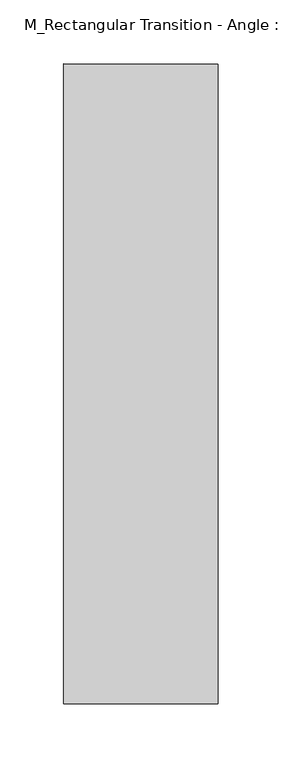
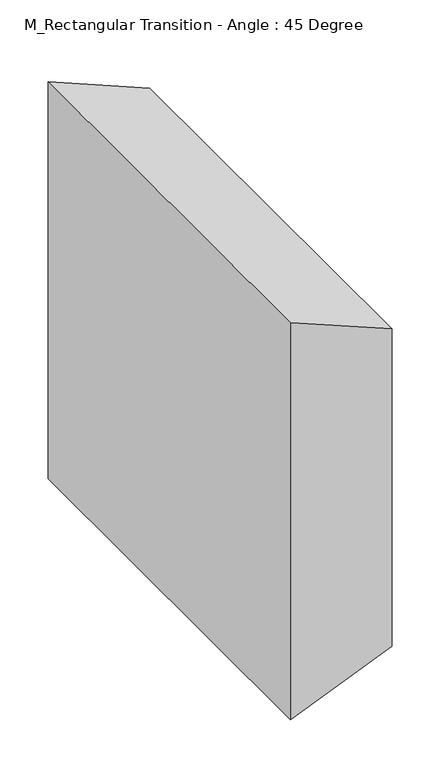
"""IFC4 building model written with IfcOpenShell, lengths in millimetres: duct fitting geometry, M_Rectangular Transition - Angle : 45 Degree."""

from ifc_helpers import new_model, si_unit, frame, origin, place, context, project, spatial, polyline, outline, extrude, source, transform, mapped, element, save


def m_rectangular_transition_angle_45_degree_444e99e6(model_context):
    return source(origin(), model_context, "Body", "SweptSolid", [
        extrude(outline(polyline([(-250.0, 0.0), (250.0, 0.0), (200.0, -120.7106781), (-200.0, -120.7106781), (-250.0, 0.0)])), frame((0.0, -250.0, 0.0), z_axis=(-2.2180216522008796e-12, 1.0, 0.0), x_axis=(0.0, 0.0, -1.0)), (0.0, 0.0, 1.0), 500.0),
        extrude(outline(polyline([(250.0, 0.0), (-250.0, 0.0), (-200.0, 120.7106781), (200.0, 120.7106781), (250.0, 0.0)])), frame((0.0, -250.0, 0.0), z_axis=(0.0, 1.0, 0.0), x_axis=(0.0, 0.0, 1.0)), (0.0, 0.0, 1.0), 500.0),
        extrude(outline(polyline([(250.0, 0.0), (-250.0, 0.0), (-200.0, 120.7106781), (200.0, 120.7106781), (250.0, 0.0)])), frame((0.0, -250.0, 0.0), z_axis=(0.0, 1.0, 0.0), x_axis=(0.0, 0.0, 1.0)), (0.0, 0.0, 1.0), 500.0),
    ])


if __name__ == "__main__":
    model = new_model("IFC4")
    model_context = context("Model", 3, world=origin())
    ifc_project = project(units=[si_unit("LENGTHUNIT", "METRE", prefix="MILLI")], contexts=[model_context])
    site = spatial("IfcSite", under=ifc_project)
    building = spatial("IfcBuilding", under=site)
    placement = place(None, origin())
    m_rectangular_transition_angle_45_degree_shape = m_rectangular_transition_angle_45_degree_444e99e6(model_context)
    element("IfcDuctFitting", 1, ObjectType="M_Rectangular Transition - Angle : 45 Degree", at=placement, inside=building, context=model_context, shape_type="MappedRepresentation", body=[
        mapped(m_rectangular_transition_angle_45_degree_shape, transform((0.0, 0.0, 0.0), x_axis=(1.0, 0.0, 0.0), y_axis=(0.0, 1.0, 0.0), z_axis=(0.0, 0.0, 1.0))),
    ])
    save(model, "model.ifc")
